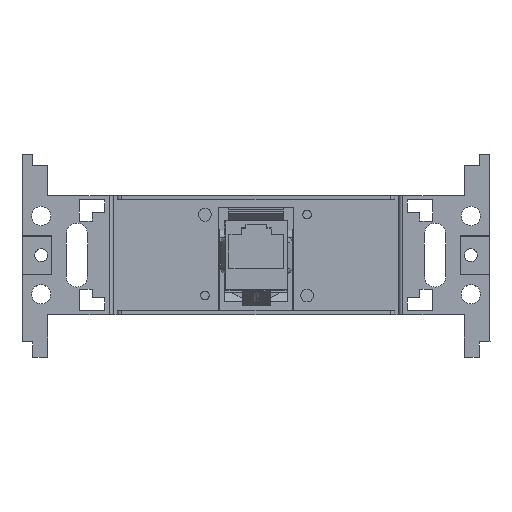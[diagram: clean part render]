
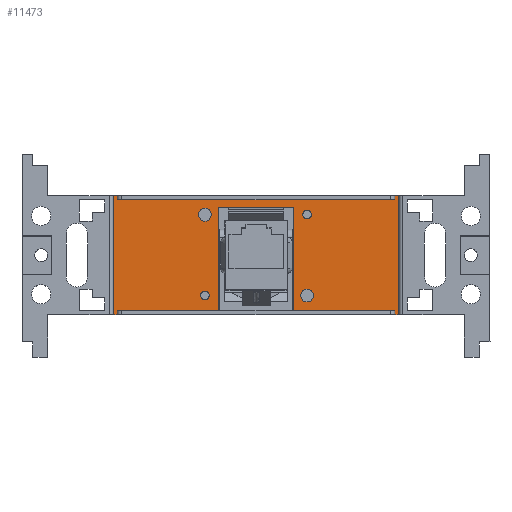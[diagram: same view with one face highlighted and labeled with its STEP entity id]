
A CAD part, top view. The second image highlights one B-rep face of the part: STEP entity #11473.
In plain terms, the highlighted planar face has unit normal (0, 0, 1).
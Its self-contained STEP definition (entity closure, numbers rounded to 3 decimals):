
#11216 = VERTEX_POINT('',#11217);
#11217 = CARTESIAN_POINT('',(-14.,33.5,1.));
#11350 = VERTEX_POINT('',#11351);
#11351 = CARTESIAN_POINT('',(-14.,-33.5,1.));
#11357 = EDGE_CURVE('',#11358,#11350,#11360,.T.);
#11358 = VERTEX_POINT('',#11359);
#11359 = CARTESIAN_POINT('',(-14.,-32.6,1.));
#11360 = LINE('',#11361,#11362);
#11361 = CARTESIAN_POINT('',(-14.,34.5,1.));
#11362 = VECTOR('',#11363,1.);
#11363 = DIRECTION('',(0.,-1.,0.));
#11400 = VERTEX_POINT('',#11401);
#11401 = CARTESIAN_POINT('',(-14.,32.6,1.));
#11407 = EDGE_CURVE('',#11216,#11400,#11408,.T.);
#11408 = LINE('',#11409,#11410);
#11409 = CARTESIAN_POINT('',(-14.,34.5,1.));
#11410 = VECTOR('',#11411,1.);
#11411 = DIRECTION('',(0.,-1.,0.));
#11431 = VERTEX_POINT('',#11432);
#11432 = CARTESIAN_POINT('',(14.,33.5,1.));
#11438 = EDGE_CURVE('',#11216,#11431,#11439,.T.);
#11439 = LINE('',#11440,#11441);
#11440 = CARTESIAN_POINT('',(-14.,33.5,1.));
#11441 = VECTOR('',#11442,1.);
#11442 = DIRECTION('',(1.,0.,0.));
#11473 = ADVANCED_FACE('',(#11474,#11579,#11590,#11601,#11612),#11623,
  .T.);
#11474 = FACE_BOUND('',#11475,.T.);
#11475 = EDGE_LOOP('',(#11476,#11484,#11485,#11493,#11501,#11509,#11517,
    #11525,#11531,#11532,#11533,#11541,#11549,#11557,#11565,#11573));
#11476 = ORIENTED_EDGE('',*,*,#11477,.F.);
#11477 = EDGE_CURVE('',#11358,#11478,#11480,.T.);
#11478 = VERTEX_POINT('',#11479);
#11479 = CARTESIAN_POINT('',(-13.,-32.6,1.));
#11480 = LINE('',#11481,#11482);
#11481 = CARTESIAN_POINT('',(-14.,-32.6,1.));
#11482 = VECTOR('',#11483,1.);
#11483 = DIRECTION('',(1.,0.,0.));
#11484 = ORIENTED_EDGE('',*,*,#11357,.T.);
#11485 = ORIENTED_EDGE('',*,*,#11486,.F.);
#11486 = EDGE_CURVE('',#11487,#11350,#11489,.T.);
#11487 = VERTEX_POINT('',#11488);
#11488 = CARTESIAN_POINT('',(14.,-33.5,1.));
#11489 = LINE('',#11490,#11491);
#11490 = CARTESIAN_POINT('',(14.,-33.5,1.));
#11491 = VECTOR('',#11492,1.);
#11492 = DIRECTION('',(-1.,0.,0.));
#11493 = ORIENTED_EDGE('',*,*,#11494,.T.);
#11494 = EDGE_CURVE('',#11487,#11495,#11497,.T.);
#11495 = VERTEX_POINT('',#11496);
#11496 = CARTESIAN_POINT('',(14.,-32.6,1.));
#11497 = LINE('',#11498,#11499);
#11498 = CARTESIAN_POINT('',(14.,-34.5,1.));
#11499 = VECTOR('',#11500,1.);
#11500 = DIRECTION('',(0.,1.,0.));
#11501 = ORIENTED_EDGE('',*,*,#11502,.F.);
#11502 = EDGE_CURVE('',#11503,#11495,#11505,.T.);
#11503 = VERTEX_POINT('',#11504);
#11504 = CARTESIAN_POINT('',(13.,-32.6,1.));
#11505 = LINE('',#11506,#11507);
#11506 = CARTESIAN_POINT('',(13.,-32.6,1.));
#11507 = VECTOR('',#11508,1.);
#11508 = DIRECTION('',(1.,0.,0.));
#11509 = ORIENTED_EDGE('',*,*,#11510,.F.);
#11510 = EDGE_CURVE('',#11511,#11503,#11513,.T.);
#11511 = VERTEX_POINT('',#11512);
#11512 = CARTESIAN_POINT('',(13.,32.6,1.));
#11513 = LINE('',#11514,#11515);
#11514 = CARTESIAN_POINT('',(13.,32.6,1.));
#11515 = VECTOR('',#11516,1.);
#11516 = DIRECTION('',(0.,-1.,0.));
#11517 = ORIENTED_EDGE('',*,*,#11518,.F.);
#11518 = EDGE_CURVE('',#11519,#11511,#11521,.T.);
#11519 = VERTEX_POINT('',#11520);
#11520 = CARTESIAN_POINT('',(14.,32.6,1.));
#11521 = LINE('',#11522,#11523);
#11522 = CARTESIAN_POINT('',(14.,32.6,1.));
#11523 = VECTOR('',#11524,1.);
#11524 = DIRECTION('',(-1.,0.,0.));
#11525 = ORIENTED_EDGE('',*,*,#11526,.T.);
#11526 = EDGE_CURVE('',#11519,#11431,#11527,.T.);
#11527 = LINE('',#11528,#11529);
#11528 = CARTESIAN_POINT('',(14.,-34.5,1.));
#11529 = VECTOR('',#11530,1.);
#11530 = DIRECTION('',(0.,1.,0.));
#11531 = ORIENTED_EDGE('',*,*,#11438,.F.);
#11532 = ORIENTED_EDGE('',*,*,#11407,.T.);
#11533 = ORIENTED_EDGE('',*,*,#11534,.F.);
#11534 = EDGE_CURVE('',#11535,#11400,#11537,.T.);
#11535 = VERTEX_POINT('',#11536);
#11536 = CARTESIAN_POINT('',(-13.,32.6,1.));
#11537 = LINE('',#11538,#11539);
#11538 = CARTESIAN_POINT('',(-13.,32.6,1.));
#11539 = VECTOR('',#11540,1.);
#11540 = DIRECTION('',(-1.,0.,0.));
#11541 = ORIENTED_EDGE('',*,*,#11542,.F.);
#11542 = EDGE_CURVE('',#11543,#11535,#11545,.T.);
#11543 = VERTEX_POINT('',#11544);
#11544 = CARTESIAN_POINT('',(-13.,8.82,1.));
#11545 = LINE('',#11546,#11547);
#11546 = CARTESIAN_POINT('',(-13.,-32.6,1.));
#11547 = VECTOR('',#11548,1.);
#11548 = DIRECTION('',(0.,1.,0.));
#11549 = ORIENTED_EDGE('',*,*,#11550,.F.);
#11550 = EDGE_CURVE('',#11551,#11543,#11553,.T.);
#11551 = VERTEX_POINT('',#11552);
#11552 = CARTESIAN_POINT('',(11.3,8.82,1.));
#11553 = LINE('',#11554,#11555);
#11554 = CARTESIAN_POINT('',(-6.5,8.82,1.));
#11555 = VECTOR('',#11556,1.);
#11556 = DIRECTION('',(-1.,0.,0.));
#11557 = ORIENTED_EDGE('',*,*,#11558,.F.);
#11558 = EDGE_CURVE('',#11559,#11551,#11561,.T.);
#11559 = VERTEX_POINT('',#11560);
#11560 = CARTESIAN_POINT('',(11.3,-8.83,1.));
#11561 = LINE('',#11562,#11563);
#11562 = CARTESIAN_POINT('',(11.3,4.41,1.));
#11563 = VECTOR('',#11564,1.);
#11564 = DIRECTION('',(0.,1.,0.));
#11565 = ORIENTED_EDGE('',*,*,#11566,.F.);
#11566 = EDGE_CURVE('',#11567,#11559,#11569,.T.);
#11567 = VERTEX_POINT('',#11568);
#11568 = CARTESIAN_POINT('',(-13.,-8.83,1.));
#11569 = LINE('',#11570,#11571);
#11570 = CARTESIAN_POINT('',(5.65,-8.83,1.));
#11571 = VECTOR('',#11572,1.);
#11572 = DIRECTION('',(1.,0.,0.));
#11573 = ORIENTED_EDGE('',*,*,#11574,.F.);
#11574 = EDGE_CURVE('',#11478,#11567,#11575,.T.);
#11575 = LINE('',#11576,#11577);
#11576 = CARTESIAN_POINT('',(-13.,-32.6,1.));
#11577 = VECTOR('',#11578,1.);
#11578 = DIRECTION('',(0.,1.,0.));
#11579 = FACE_BOUND('',#11580,.T.);
#11580 = EDGE_LOOP('',(#11581));
#11581 = ORIENTED_EDGE('',*,*,#11582,.T.);
#11582 = EDGE_CURVE('',#11583,#11583,#11585,.T.);
#11583 = VERTEX_POINT('',#11584);
#11584 = CARTESIAN_POINT('',(-8.45,-12.,1.));
#11585 = CIRCLE('',#11586,1.);
#11586 = AXIS2_PLACEMENT_3D('',#11587,#11588,#11589);
#11587 = CARTESIAN_POINT('',(-9.45,-12.,1.));
#11588 = DIRECTION('',(0.,0.,-1.));
#11589 = DIRECTION('',(1.,0.,0.));
#11590 = FACE_BOUND('',#11591,.T.);
#11591 = EDGE_LOOP('',(#11592));
#11592 = ORIENTED_EDGE('',*,*,#11593,.T.);
#11593 = EDGE_CURVE('',#11594,#11594,#11596,.T.);
#11594 = VERTEX_POINT('',#11595);
#11595 = CARTESIAN_POINT('',(10.55,-12.,1.));
#11596 = CIRCLE('',#11597,1.);
#11597 = AXIS2_PLACEMENT_3D('',#11598,#11599,#11600);
#11598 = CARTESIAN_POINT('',(9.55,-12.,1.));
#11599 = DIRECTION('',(0.,0.,-1.));
#11600 = DIRECTION('',(1.,0.,0.));
#11601 = FACE_BOUND('',#11602,.T.);
#11602 = EDGE_LOOP('',(#11603));
#11603 = ORIENTED_EDGE('',*,*,#11604,.T.);
#11604 = EDGE_CURVE('',#11605,#11605,#11607,.T.);
#11605 = VERTEX_POINT('',#11606);
#11606 = CARTESIAN_POINT('',(-8.45,12.,1.));
#11607 = CIRCLE('',#11608,1.);
#11608 = AXIS2_PLACEMENT_3D('',#11609,#11610,#11611);
#11609 = CARTESIAN_POINT('',(-9.45,12.,1.));
#11610 = DIRECTION('',(0.,0.,-1.));
#11611 = DIRECTION('',(1.,0.,0.));
#11612 = FACE_BOUND('',#11613,.T.);
#11613 = EDGE_LOOP('',(#11614));
#11614 = ORIENTED_EDGE('',*,*,#11615,.T.);
#11615 = EDGE_CURVE('',#11616,#11616,#11618,.T.);
#11616 = VERTEX_POINT('',#11617);
#11617 = CARTESIAN_POINT('',(10.55,12.,1.));
#11618 = CIRCLE('',#11619,1.);
#11619 = AXIS2_PLACEMENT_3D('',#11620,#11621,#11622);
#11620 = CARTESIAN_POINT('',(9.55,12.,1.));
#11621 = DIRECTION('',(0.,0.,-1.));
#11622 = DIRECTION('',(1.,0.,0.));
#11623 = PLANE('',#11624);
#11624 = AXIS2_PLACEMENT_3D('',#11625,#11626,#11627);
#11625 = CARTESIAN_POINT('',(0.,0.,1.));
#11626 = DIRECTION('',(0.,0.,1.));
#11627 = DIRECTION('',(1.,0.,-0.));
